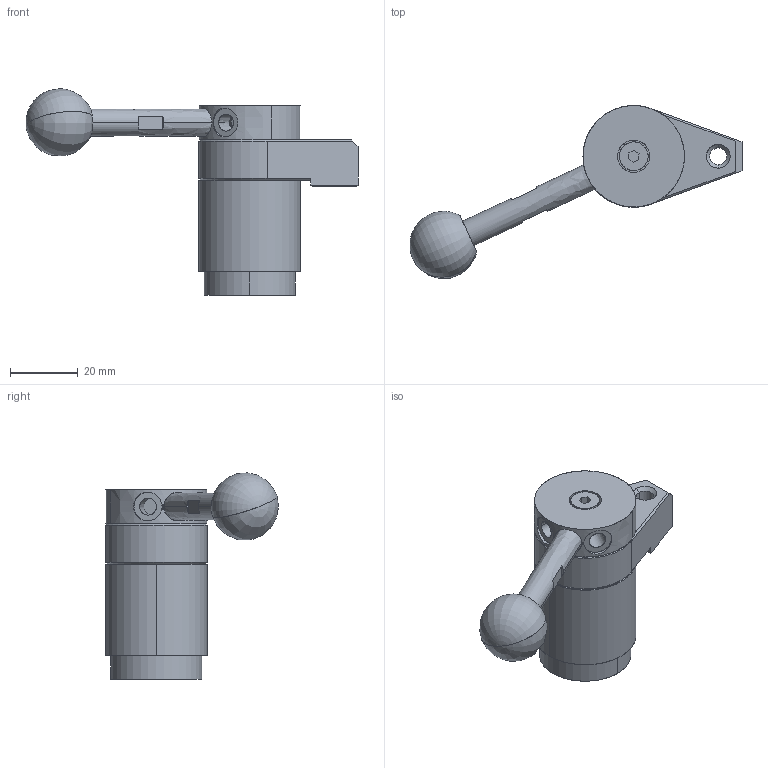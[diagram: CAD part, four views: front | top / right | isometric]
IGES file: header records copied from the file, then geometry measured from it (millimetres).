
Start section: SolidWorks IGES file using analytic representation for surfaces
Global section: file name: Y:\5.更新分\2023年対応\0824_QLSW更新分\QLSW150L\QLSW150L.IGS; native system: SolidWorks 2021; preprocessor: SolidWorks 2021; author: ImaoCorp; date: 230824.095753; units: millimetre
Bounding box: 98.16 x 51.11 x 60.96 mm (x, y, z)
Surface area: 19085.2 mm2 (no closed solid volume)
Topology: 0 solids, 0 shells, 120 faces, 2361 edges, 2360 vertices
Faces by surface type: revolution 65, bspline 55
